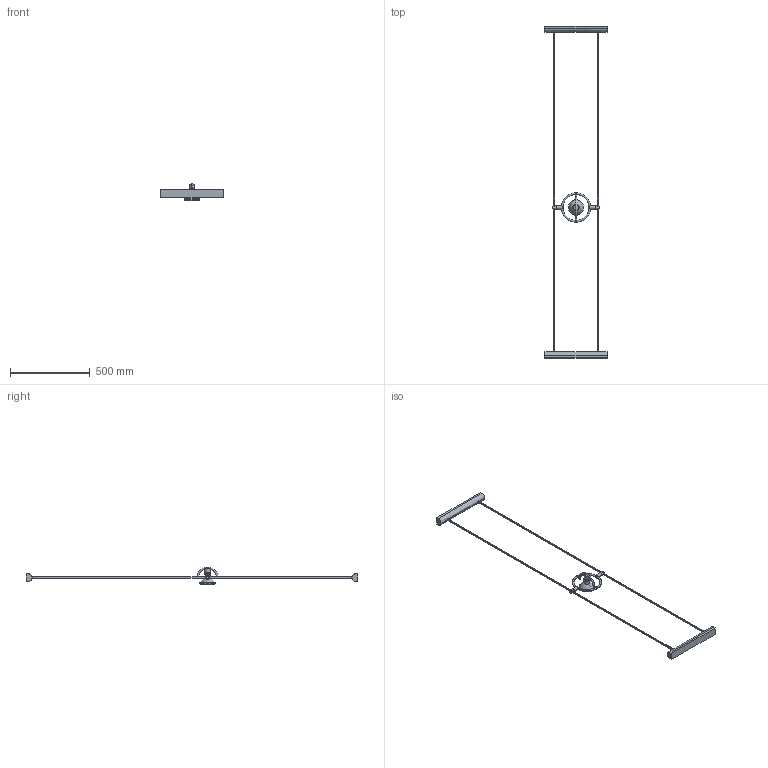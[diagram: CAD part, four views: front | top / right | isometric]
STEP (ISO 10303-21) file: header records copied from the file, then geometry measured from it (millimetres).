
FILE_DESCRIPTION((''),'2;1');
FILE_NAME('CINI&NILS - newTensoFariuno 3D.stp','2011-02-17T14:50:34',(''),(''),'AutoCAD STEP 2000i','AutoCAD 2000i',', , ');
FILE_SCHEMA(('CONFIG_CONTROL_DESIGN'));
Length unit declared in the file: millimetre
Products named in the file (2): CINI&NILS - NEWTENSOFARIUNO 3D; ~~~PARTE1
Assembly tree (1 placements, depth 2):
  CINI&NILS - NEWTENSOFARIUNO 3D
    ~~~PARTE1
Bounding box: 388 x 2076 x 112.5 mm (x, y, z)
Volume: 1756355.9 mm3; surface area: 306131.6 mm2
Topology: 2 solids, 2 shells, 177 faces, 503 edges, 334 vertices
Faces by surface type: cylinder 74, plane 62, bspline 23, torus 12, cone 4, sphere 2
Entity records: 7426 total; most frequent: CARTESIAN_POINT 2772, ORIENTED_EDGE 1004, DIRECTION 915, EDGE_CURVE 502, AXIS2_PLACEMENT_3D 352, VERTEX_POINT 332, VECTOR 211, LINE 211
